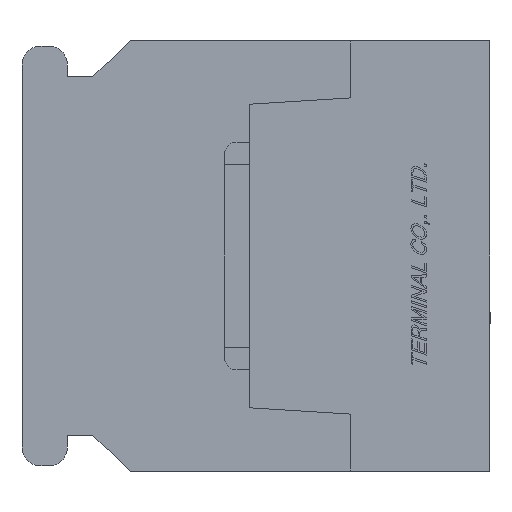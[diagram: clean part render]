
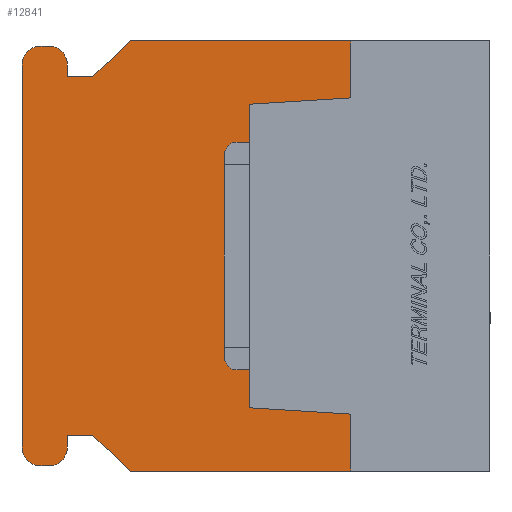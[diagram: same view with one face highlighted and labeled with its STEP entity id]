
A CAD part, left-side view. The second image highlights one B-rep face of the part: STEP entity #12841.
In plain terms, the highlighted planar face has unit normal (-1, 0, 0).
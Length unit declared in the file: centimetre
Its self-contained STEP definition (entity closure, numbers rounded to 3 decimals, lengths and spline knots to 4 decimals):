
#608=CIRCLE('',#22089,0.075);
#609=CIRCLE('',#22092,0.075);
#610=CIRCLE('',#22095,0.075);
#611=CIRCLE('',#22098,0.075);
#837=VERTEX_POINT('',#16935);
#838=VERTEX_POINT('',#16937);
#839=VERTEX_POINT('',#16941);
#840=VERTEX_POINT('',#16945);
#841=VERTEX_POINT('',#16949);
#842=VERTEX_POINT('',#16953);
#843=VERTEX_POINT('',#16957);
#844=VERTEX_POINT('',#16961);
#845=VERTEX_POINT('',#16965);
#846=VERTEX_POINT('',#16969);
#847=VERTEX_POINT('',#16973);
#848=VERTEX_POINT('',#16977);
#849=VERTEX_POINT('',#16981);
#850=VERTEX_POINT('',#16985);
#851=VERTEX_POINT('',#16989);
#852=VERTEX_POINT('',#16990);
#853=VERTEX_POINT('',#16993);
#854=VERTEX_POINT('',#16995);
#855=VERTEX_POINT('',#16997);
#856=VERTEX_POINT('',#16999);
#2176=VECTOR('',#14166,1.);
#2179=VECTOR('',#14170,1.);
#2181=VECTOR('',#14173,1.);
#2184=VECTOR('',#14181,1.);
#2187=VECTOR('',#14189,1.);
#2190=VECTOR('',#14197,1.);
#2193=VECTOR('',#14205,1.);
#2195=VECTOR('',#14208,1.);
#2197=VECTOR('',#14211,1.);
#2198=VECTOR('',#14213,1.);
#2199=VECTOR('',#14214,1.);
#2200=VECTOR('',#14215,1.);
#2201=VECTOR('',#14216,1.);
#2202=VECTOR('',#14217,1.);
#2203=VECTOR('',#14218,1.);
#2204=VECTOR('',#14219,1.);
#3670=LINE('',#16936,#2176);
#3673=LINE('',#16942,#2179);
#3675=LINE('',#16946,#2181);
#3678=LINE('',#16954,#2184);
#3681=LINE('',#16962,#2187);
#3684=LINE('',#16970,#2190);
#3687=LINE('',#16978,#2193);
#3689=LINE('',#16982,#2195);
#3691=LINE('',#16986,#2197);
#3692=LINE('',#16988,#2198);
#3693=LINE('',#16991,#2199);
#3694=LINE('',#16992,#2200);
#3695=LINE('',#16994,#2201);
#3696=LINE('',#16996,#2202);
#3697=LINE('',#16998,#2203);
#3698=LINE('',#17000,#2204);
#5168=EDGE_CURVE('',#837,#838,#3670,.T.);
#5171=EDGE_CURVE('',#839,#837,#3673,.T.);
#5173=EDGE_CURVE('',#840,#839,#3675,.T.);
#5175=EDGE_CURVE('',#841,#840,#608,.T.);
#5177=EDGE_CURVE('',#842,#841,#3678,.T.);
#5179=EDGE_CURVE('',#843,#842,#609,.T.);
#5181=EDGE_CURVE('',#844,#843,#3681,.T.);
#5183=EDGE_CURVE('',#845,#844,#610,.T.);
#5185=EDGE_CURVE('',#846,#845,#3684,.T.);
#5187=EDGE_CURVE('',#847,#846,#611,.T.);
#5189=EDGE_CURVE('',#848,#847,#3687,.T.);
#5191=EDGE_CURVE('',#849,#848,#3689,.T.);
#5193=EDGE_CURVE('',#850,#849,#3691,.T.);
#5194=EDGE_CURVE('',#851,#852,#3692,.T.);
#5195=EDGE_CURVE('',#838,#852,#3693,.T.);
#5196=EDGE_CURVE('',#853,#850,#3694,.T.);
#5197=EDGE_CURVE('',#853,#854,#3695,.T.);
#5198=EDGE_CURVE('',#854,#855,#3696,.T.);
#5199=EDGE_CURVE('',#855,#856,#3697,.T.);
#5200=EDGE_CURVE('',#856,#851,#3698,.T.);
#7223=ORIENTED_EDGE('',*,*,#5194,.T.);
#7224=ORIENTED_EDGE('',*,*,#5195,.F.);
#7225=ORIENTED_EDGE('',*,*,#5168,.F.);
#7226=ORIENTED_EDGE('',*,*,#5171,.F.);
#7227=ORIENTED_EDGE('',*,*,#5173,.F.);
#7228=ORIENTED_EDGE('',*,*,#5175,.F.);
#7229=ORIENTED_EDGE('',*,*,#5177,.F.);
#7230=ORIENTED_EDGE('',*,*,#5179,.F.);
#7231=ORIENTED_EDGE('',*,*,#5181,.F.);
#7232=ORIENTED_EDGE('',*,*,#5183,.F.);
#7233=ORIENTED_EDGE('',*,*,#5185,.F.);
#7234=ORIENTED_EDGE('',*,*,#5187,.F.);
#7235=ORIENTED_EDGE('',*,*,#5189,.F.);
#7236=ORIENTED_EDGE('',*,*,#5191,.F.);
#7237=ORIENTED_EDGE('',*,*,#5193,.F.);
#7238=ORIENTED_EDGE('',*,*,#5196,.F.);
#7239=ORIENTED_EDGE('',*,*,#5197,.T.);
#7240=ORIENTED_EDGE('',*,*,#5198,.T.);
#7241=ORIENTED_EDGE('',*,*,#5199,.T.);
#7242=ORIENTED_EDGE('',*,*,#5200,.T.);
#11173=EDGE_LOOP('',(#7223,#7224,#7225,#7226,#7227,#7228,#7229,#7230,#7231,
#7232,#7233,#7234,#7235,#7236,#7237,#7238,#7239,#7240,#7241,#7242));
#12007=FACE_BOUND('',#11173,.T.);
#12841=ADVANCED_FACE('',(#12007),#13591,.F.);
#13591=PLANE('',#22102);
#14166=DIRECTION('',(0.,-0.731,0.682));
#14170=DIRECTION('',(0.,-1.,0.));
#14173=DIRECTION('',(0.,0.,-1.));
#14177=DIRECTION('',(1.,0.,0.));
#14178=DIRECTION('',(0.,0.,-0.075));
#14181=DIRECTION('',(0.,-1.,0.));
#14185=DIRECTION('',(1.,0.,0.));
#14186=DIRECTION('',(0.,0.,-0.075));
#14189=DIRECTION('',(0.,0.,1.));
#14193=DIRECTION('',(1.,0.,0.));
#14194=DIRECTION('',(0.,0.,-0.075));
#14197=DIRECTION('',(0.,1.,0.));
#14201=DIRECTION('',(1.,0.,0.));
#14202=DIRECTION('',(0.,0.,-0.075));
#14205=DIRECTION('',(0.,0.,-1.));
#14208=DIRECTION('',(0.,1.,0.));
#14211=DIRECTION('',(0.,0.731,0.682));
#14212=DIRECTION('',(1.,0.,0.));
#14213=DIRECTION('',(0.,0.,1.));
#14214=DIRECTION('',(0.,-1.,0.));
#14215=DIRECTION('',(0.,1.,0.));
#14216=DIRECTION('',(0.,0.,1.));
#14217=DIRECTION('',(0.,0.998,0.062));
#14218=DIRECTION('',(0.,0.,1.));
#14219=DIRECTION('',(0.,-0.998,0.062));
#16935=CARTESIAN_POINT('',(-1.,1.57,0.71));
#16936=CARTESIAN_POINT('',(-1.,1.57,0.71));
#16937=CARTESIAN_POINT('',(-1.,1.42,0.85));
#16941=CARTESIAN_POINT('',(-1.,1.67,0.71));
#16942=CARTESIAN_POINT('',(-1.,1.67,0.71));
#16945=CARTESIAN_POINT('',(-1.,1.67,0.755));
#16946=CARTESIAN_POINT('',(-1.,1.67,0.755));
#16949=CARTESIAN_POINT('',(-1.,1.745,0.83));
#16950=CARTESIAN_POINT('',(-1.,1.745,0.755));
#16953=CARTESIAN_POINT('',(-1.,1.775,0.83));
#16954=CARTESIAN_POINT('',(-1.,1.775,0.83));
#16957=CARTESIAN_POINT('',(-1.,1.85,0.755));
#16958=CARTESIAN_POINT('',(-1.,1.775,0.755));
#16961=CARTESIAN_POINT('',(-1.,1.85,-0.755));
#16962=CARTESIAN_POINT('',(-1.,1.85,-0.755));
#16965=CARTESIAN_POINT('',(-1.,1.775,-0.83));
#16966=CARTESIAN_POINT('',(-1.,1.775,-0.755));
#16969=CARTESIAN_POINT('',(-1.,1.745,-0.83));
#16970=CARTESIAN_POINT('',(-1.,1.745,-0.83));
#16973=CARTESIAN_POINT('',(-1.,1.67,-0.755));
#16974=CARTESIAN_POINT('',(-1.,1.745,-0.755));
#16977=CARTESIAN_POINT('',(-1.,1.67,-0.71));
#16978=CARTESIAN_POINT('',(-1.,1.67,-0.71));
#16981=CARTESIAN_POINT('',(-1.,1.57,-0.71));
#16982=CARTESIAN_POINT('',(-1.,1.57,-0.71));
#16985=CARTESIAN_POINT('',(-1.,1.42,-0.85));
#16986=CARTESIAN_POINT('',(-1.,1.42,-0.85));
#16987=CARTESIAN_POINT('',(-1.,0.9383,0.));
#16988=CARTESIAN_POINT('',(-1.,0.55,0.625));
#16989=CARTESIAN_POINT('',(-1.,0.55,0.625));
#16990=CARTESIAN_POINT('',(-1.,0.55,0.85));
#16991=CARTESIAN_POINT('',(-1.,1.42,0.85));
#16992=CARTESIAN_POINT('',(-1.,0.,-0.85));
#16993=CARTESIAN_POINT('',(-1.,0.55,-0.85));
#16994=CARTESIAN_POINT('',(-1.,0.55,-0.85));
#16995=CARTESIAN_POINT('',(-1.,0.55,-0.625));
#16996=CARTESIAN_POINT('',(-1.,0.55,-0.625));
#16997=CARTESIAN_POINT('',(-1.,0.95,-0.6));
#16998=CARTESIAN_POINT('',(-1.,0.95,-0.6));
#16999=CARTESIAN_POINT('',(-1.,0.95,0.6));
#17000=CARTESIAN_POINT('',(-1.,0.95,0.6));
#22089=AXIS2_PLACEMENT_3D('',#16950,#14177,#14178);
#22092=AXIS2_PLACEMENT_3D('',#16958,#14185,#14186);
#22095=AXIS2_PLACEMENT_3D('',#16966,#14193,#14194);
#22098=AXIS2_PLACEMENT_3D('',#16974,#14201,#14202);
#22102=AXIS2_PLACEMENT_3D('',#16987,#14212,$);
